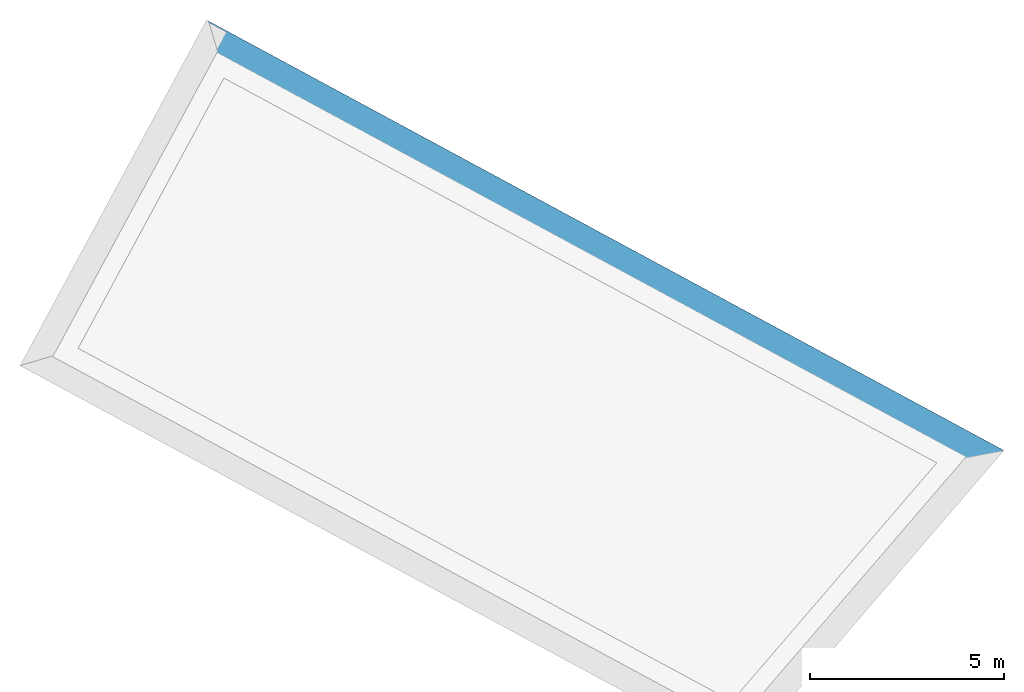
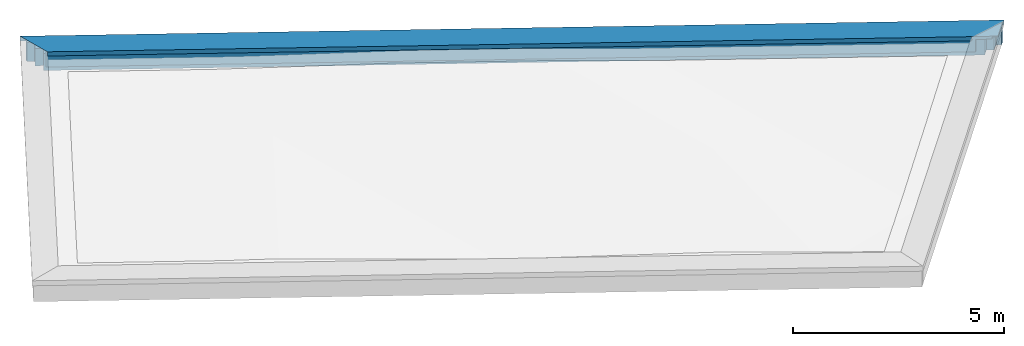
# One storey, part 3 of 5: 1 wall.
"""IFC2X3 building model written with IfcOpenShell, lengths in metres."""

from ifc_helpers import new_model, entity, si_unit, converted_unit, derived_unit, money_unit, direction, frame, origin_with_axes, place, context, subcontext, project, spatial, faceted_brep, material, material_list, type_object, element, save


model = new_model("IFC2X3")

# Units and contexts
model_context = context("Model", 3, precision=1e-05, world=origin_with_axes(), true_north=direction((0.0, 1.0)))
body_context = subcontext(model_context, "Body", "Model", "MODEL_VIEW")
ifc_project = project(units=[si_unit("LENGTHUNIT", "METRE"), si_unit("AREAUNIT", "SQUARE_METRE"), si_unit("VOLUMEUNIT", "CUBIC_METRE"), converted_unit("PLANEANGLEUNIT", "DEGREE", entity("IfcPlaneAngleMeasure", 0.0174532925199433), si_unit("PLANEANGLEUNIT", "RADIAN"), dimensions=[0, 0, 0, 0, 0, 0, 0]), money_unit("EUR"), converted_unit("TIMEUNIT", "Year", entity("IfcTimeMeasure", 31556926.0), si_unit("TIMEUNIT", "SECOND"), dimensions=[0, 0, 1, 0, 0, 0, 0]), si_unit("MASSUNIT", "GRAM", prefix="KILO"), si_unit("THERMODYNAMICTEMPERATUREUNIT", "DEGREE_CELSIUS"), si_unit("LUMINOUSINTENSITYUNIT", "LUMEN"), si_unit("ENERGYUNIT", "JOULE", prefix="MEGA"), derived_unit("THERMALCONDUCTANCEUNIT", [(si_unit("POWERUNIT", "WATT"), 1), (si_unit("LENGTHUNIT", "METRE"), -1), (si_unit("THERMODYNAMICTEMPERATUREUNIT", "KELVIN"), -1)]), derived_unit("SPECIFICHEATCAPACITYUNIT", [(si_unit("ENERGYUNIT", "JOULE"), 1), (si_unit("MASSUNIT", "GRAM", prefix="KILO"), -1), (si_unit("THERMODYNAMICTEMPERATUREUNIT", "KELVIN"), -1)]), derived_unit("MASSDENSITYUNIT", [(si_unit("MASSUNIT", "GRAM", prefix="KILO"), 1), (si_unit("VOLUMEUNIT", "CUBIC_METRE"), -1)])], contexts=[model_context])

# Site, building, storey
site_placement = place(None, frame((-3.949935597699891, 1.740105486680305, 0.0), z_axis=(0.0, 0.0, 1.0), x_axis=(0.8799804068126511, -0.475009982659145, 0.0)))
site = spatial("IfcSite", under=ifc_project, at=site_placement, Name="Gelände", CompositionType="ELEMENT")
building_placement = place(site_placement, origin_with_axes())
building = spatial("IfcBuilding", under=site, at=building_placement, Name="Gebäude", CompositionType="ELEMENT")
storey_placement = place(building_placement, frame((0.0, 0.0, 7.904999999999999), z_axis=(0.0, 0.0, 1.0), x_axis=(1.0, 0.0, 0.0)))
storey = spatial("IfcBuildingStorey", under=building, at=storey_placement, Name="Dachaufsicht", CompositionType="ELEMENT", Elevation=7.905)

# Wall
ifc_material_1 = material(Name="_SIWH - Dämmung, hart Mineralwolle")
ifc_material_2 = material(Name="_SIWH - Beton, Stahlbeton")
ifc_material_3 = material(Name="_SIWH - Holz, Bauholz")
ifc_material_4 = material(Name="_SIWH - Dämmung, weich Mineralwolle")
ifc_material_5 = material(Name="_SIWH - Luftschicht vertikal")
ifc_material_6 = material(Name="_SIWH - MW Vormauerziegel")
ifc_material_7 = material(Name="_SIWH - Metall, Aluminium")
ifc_material_list = material_list([ifc_material_1, ifc_material_2, ifc_material_3, ifc_material_4, ifc_material_5, ifc_material_6, ifc_material_7])
wall_type = type_object("IfcWallType", Name="_SIWH - Attika 1.OG 635 x 625", PredefinedType="NOTDEFINED")
wall_placement = place(storey_placement, frame((27.97633118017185, 10.85780102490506, -0.1909999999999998), z_axis=(0.0, 0.0, 1.0), x_axis=(-1.0, 0.0, 0.0)))
element("IfcWall", 1, at=wall_placement, inside=storey, type_object=wall_type, material=ifc_material_list, Name="A-Wand031", context=body_context, shape_type="Brep", body=[
    faceted_brep([(22.3188505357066, 0.2600000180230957, 0.5599999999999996), (-0.1274569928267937, 0.2600000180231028, 0.5599999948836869), (-0.2235567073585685, -0.1799999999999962, 0.5599999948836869), (22.3188505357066, -0.1800000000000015, 0.5599999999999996), (-0.1274569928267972, 0.2600000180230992, 0.5014142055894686), (-0.1274569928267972, 0.2600000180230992, 0.5020656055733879), (22.3188505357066, 0.2600000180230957, 0.5020656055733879), (22.3188505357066, 0.2600000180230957, 0.5014142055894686), (22.3188505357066, 0.2600000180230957, 0.4999999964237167), (22.3188505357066, 0.2600000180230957, 0.4857034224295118), (22.3188505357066, 0.2600000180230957, 0.4848284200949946), (22.3188505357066, 0.2600000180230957, 0.4808749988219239), (22.3188505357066, 0.2600000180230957, 0.4799999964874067), (22.3188505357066, 0.2600000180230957, 0.1399999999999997), (0.261500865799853, 0.2600000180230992, 0.1399999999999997), (0.261500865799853, 0.2600000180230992, 0.4799999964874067), (0.261500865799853, 0.2600000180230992, 0.4808750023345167), (0.261500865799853, 0.2600000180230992, 0.4848284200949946), (0.261500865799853, 0.2600000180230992, 0.4857034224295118), (0.261500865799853, 0.2600000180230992, 0.4999999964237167), (0.05678619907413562, 0.2600000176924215, 0.4999999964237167), (-0.1274569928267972, 0.2600000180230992, 0.4999999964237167), (-0.223556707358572, -0.1799999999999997, 0.5020656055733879), (-0.223556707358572, -0.1799999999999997, 0.5014142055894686), (-0.2235567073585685, -0.1799999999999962, 0.4999999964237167), (22.3188505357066, -0.1800000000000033, 0.4999999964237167), (22.3188505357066, -0.1800000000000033, 0.5014142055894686), (22.3188505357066, -0.1800000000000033, 0.5020656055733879), (22.3188505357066, 0.2000000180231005, 0.4999999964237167), (22.3188505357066, 0.2000000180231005, 0.4857034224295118), (22.3188505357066, 0.2000000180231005, 0.4848284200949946), (22.3188505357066, 0.2000000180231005, 0.4808749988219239), (22.3188505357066, 0.2000000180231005, 0.4799999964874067), (22.3188505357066, 0.2000000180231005, 0.1399999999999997), (0.2483963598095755, 0.2000000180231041, 0.1399999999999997), (0.2483963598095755, 0.2000000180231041, 0.4799999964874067), (0.2483963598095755, 0.2000000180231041, 0.4808750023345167), (0.2483963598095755, 0.2000000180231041, 0.4848284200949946), (0.2483963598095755, 0.2000000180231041, 0.4857034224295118), (0.2483963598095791, 0.2000000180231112, 0.4999999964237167), (0.04368169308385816, 0.2000000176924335, 0.4999999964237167), (-0.1405614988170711, 0.2000000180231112, 0.4999999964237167)], [[[0, 1, 2, 3]], [[4, 5, 1, 0, 6, 7, 8, 9, 10, 11, 12, 13, 14, 15, 16, 17, 18, 19, 20, 21]], [[5, 22, 2, 1]], [[3, 2, 22, 23, 24, 25, 26, 27]], [[6, 0, 3, 27]], [[23, 22, 5, 4]], [[7, 6, 27, 26]], [[26, 25, 28, 8, 7]], [[9, 8, 28, 29]], [[9, 29, 30, 10]], [[11, 10, 30, 31]], [[11, 31, 32, 12]], [[13, 12, 32, 33]], [[34, 14, 13, 33]], [[15, 14, 34, 35]], [[15, 35, 36, 16]], [[36, 37, 17, 16]], [[38, 18, 17, 37]], [[38, 39, 19, 18]], [[39, 40, 20, 19]], [[21, 20, 40, 41]], [[23, 4, 21, 41, 24]], [[25, 24, 41, 40, 39, 28]], [[35, 34, 33, 32, 31, 30, 29, 28, 39, 38, 37, 36]]]),
    faceted_brep([(22.37885053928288, 0.2000000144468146, 0.4999999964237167), (0.04368169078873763, 0.200000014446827, 0.4999999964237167), (1.550837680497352e-09, 2.525881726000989e-09, 0.4999999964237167), (22.37885053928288, 2.525874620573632e-09, 0.4999999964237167), (0.04368169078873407, 0.2000000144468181, 0.4848284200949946), (0.04368169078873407, 0.2000000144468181, 0.4857034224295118), (22.37885053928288, 0.2000000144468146, 0.4857034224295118), (22.37885053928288, 0.2000000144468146, 0.4848284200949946), (22.37885053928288, 0.2000000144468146, 0.4808749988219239), (22.37885053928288, 0.2000000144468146, 0.4799999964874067), (22.37885053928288, 0.2000000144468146, 0.1399999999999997), (0.04368169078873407, 0.2000000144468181, 0.1399999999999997), (0.04368169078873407, 0.2000000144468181, 0.4799999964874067), (0.04368169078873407, 0.2000000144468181, 0.4808750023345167), (1.550837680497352e-09, 2.52587817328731e-09, 0.4857034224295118), (1.550837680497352e-09, 2.52587817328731e-09, 0.4848284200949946), (1.550837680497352e-09, 2.52587817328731e-09, 0.4808750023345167), (1.550837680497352e-09, 2.52587817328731e-09, 0.4799999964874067), (1.550837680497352e-09, 2.52587817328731e-09, 0.1399999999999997), (1.550837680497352e-09, 2.52587994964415e-09, 0.0), (22.37885053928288, 2.525874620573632e-09, 0.0), (22.37885053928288, 2.525874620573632e-09, 0.1399999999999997), (22.37885053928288, 2.525874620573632e-09, 0.4799999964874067), (22.37885053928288, 2.525874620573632e-09, 0.4808749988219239), (22.37885053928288, 2.525874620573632e-09, 0.4848284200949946), (22.37885053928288, 2.525874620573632e-09, 0.4857034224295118), (0.04368169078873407, 0.2000000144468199, 0.0), (22.37885053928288, 0.2000000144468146, 0.0)], [[[0, 1, 2, 3]], [[4, 5, 1, 0, 6, 7, 8, 9, 10, 11, 12, 13]], [[5, 14, 2, 1]], [[3, 2, 14, 15, 16, 17, 18, 19, 20, 21, 22, 23, 24, 25]], [[0, 3, 25, 6]], [[15, 14, 5, 4]], [[6, 25, 24, 7]], [[24, 23, 8, 7]], [[8, 23, 22, 9]], [[22, 21, 10, 9]], [[26, 11, 10, 27]], [[11, 18, 17, 12]], [[13, 12, 17, 16]], [[15, 4, 13, 16]], [[19, 18, 11, 26]], [[19, 26, 27, 20]], [[10, 21, 20, 27]]]),
    faceted_brep([(-0.2656393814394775, 0.2600000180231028, 0.5850000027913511), (-0.3912242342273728, -0.3149999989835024, 0.5850000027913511), (22.3188505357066, -0.3149999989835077, 0.5849999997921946), (22.3188505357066, 0.2600000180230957, 0.5849999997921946), (-0.3912242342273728, -0.3149999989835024, 0.5599999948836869), (-0.2656393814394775, 0.2600000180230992, 0.5599999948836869), (22.3188505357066, -0.3149999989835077, 0.5599999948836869), (22.3188505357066, 0.2600000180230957, 0.5599999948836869)], [[[0, 1, 2, 3]], [[4, 1, 0, 5]], [[1, 4, 6, 2]], [[3, 2, 6, 7]], [[5, 0, 3, 7]], [[4, 5, 7, 6]]]),
    faceted_brep([(-0.1842431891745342, 9.761595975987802e-10, 0.4999999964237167), (-0.2235567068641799, -0.1799999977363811, 0.4999999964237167), (22.57885055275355, -0.1799999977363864, 0.4999999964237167), (22.57885055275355, 9.761524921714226e-10, 0.4999999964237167), (-0.2235567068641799, -0.1799999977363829, 0.4857034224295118), (-0.1842431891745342, 9.761560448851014e-10, 0.4857034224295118), (-0.2235567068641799, -0.1799999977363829, 0.4848284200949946), (-0.2235567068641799, -0.1799999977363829, 0.4808750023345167), (-0.2235567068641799, -0.1799999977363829, 0.4799999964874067), (-0.2235567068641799, -0.1799999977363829, 0.1399999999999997), (-0.2235567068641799, -0.1799999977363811, 0.0), (22.57885055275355, -0.1799999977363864, 0.0), (22.57885055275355, -0.1799999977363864, 0.1399999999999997), (22.57885055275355, -0.1799999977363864, 0.4799999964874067), (22.57885055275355, -0.1799999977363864, 0.4808749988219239), (22.57885055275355, -0.1799999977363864, 0.4848284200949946), (22.57885055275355, -0.1799999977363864, 0.4857034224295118), (22.57885055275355, 9.761524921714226e-10, 0.4857034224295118), (22.57885055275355, 9.761524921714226e-10, 0.4848284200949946), (22.57885055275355, 9.761524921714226e-10, 0.4808749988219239), (22.57885055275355, 9.761524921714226e-10, 0.4799999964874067), (22.57885055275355, 9.761524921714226e-10, 0.1399999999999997), (22.57885055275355, 9.761524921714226e-10, 0.0), (-0.1842431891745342, 9.761595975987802e-10, 0.0), (-0.1842431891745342, 9.761560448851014e-10, 0.1399999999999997), (-0.1842431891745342, 9.761560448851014e-10, 0.4799999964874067), (-0.1842431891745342, 9.761560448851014e-10, 0.4808750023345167), (-0.1842431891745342, 9.761560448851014e-10, 0.4848284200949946)], [[[0, 1, 2, 3]], [[4, 1, 0, 5]], [[1, 4, 6, 7, 8, 9, 10, 11, 12, 13, 14, 15, 16, 2]], [[16, 17, 3, 2]], [[5, 0, 3, 17, 18, 19, 20, 21, 22, 23, 24, 25, 26, 27]], [[4, 5, 27, 6]], [[7, 6, 27, 26]], [[25, 8, 7, 26]], [[25, 24, 9, 8]], [[9, 24, 23, 10]], [[11, 10, 23, 22]], [[11, 22, 21, 12]], [[13, 12, 21, 20]], [[13, 20, 19, 14]], [[15, 14, 19, 18]], [[15, 18, 17, 16]]]),
    faceted_brep([(-0.2440281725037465, -0.1800000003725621, 0.5599999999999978), (-0.248396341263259, -0.2000000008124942, 0.5599999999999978), (22.75885055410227, -0.2000000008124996, 0.5599999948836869), (22.75885055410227, -0.1800000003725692, 0.5599999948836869), (-0.248396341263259, -0.200000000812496, 0.5020656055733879), (-0.2440281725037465, -0.1800000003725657, 0.5020656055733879), (-0.248396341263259, -0.200000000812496, 0.5014142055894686), (-0.248396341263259, -0.200000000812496, 0.4999999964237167), (-0.248396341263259, -0.200000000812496, 0.4857034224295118), (-0.248396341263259, -0.200000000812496, 0.4848284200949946), (-0.248396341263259, -0.200000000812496, 0.4808750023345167), (-0.248396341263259, -0.200000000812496, 0.4799999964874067), (-0.248396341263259, -0.200000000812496, 0.1399999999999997), (-0.248396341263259, -0.200000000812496, 0.0), (22.75885055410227, -0.2000000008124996, 0.0), (22.75885055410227, -0.2000000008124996, 0.1399999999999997), (22.75885055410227, -0.2000000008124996, 0.4799999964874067), (22.75885055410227, -0.2000000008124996, 0.4808749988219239), (22.75885055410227, -0.2000000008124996, 0.4848284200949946), (22.75885055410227, -0.2000000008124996, 0.4857034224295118), (22.75885055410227, -0.2000000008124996, 0.4999999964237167), (22.75885055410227, -0.2000000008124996, 0.5014142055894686), (22.75885055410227, -0.2000000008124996, 0.5020656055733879), (22.75885055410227, -0.1800000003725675, 0.5020656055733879), (22.75885055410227, -0.1800000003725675, 0.5014142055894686), (22.75885055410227, -0.1800000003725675, 0.4999999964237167), (22.75885055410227, -0.1800000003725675, 0.4857034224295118), (22.75885055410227, -0.1800000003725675, 0.4848284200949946), (22.75885055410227, -0.1800000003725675, 0.4808749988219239), (22.75885055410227, -0.1800000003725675, 0.4799999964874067), (22.75885055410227, -0.1800000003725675, 0.1399999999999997), (22.75885055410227, -0.1800000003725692, 0.0), (-0.2440281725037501, -0.1800000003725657, 0.0), (-0.2440281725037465, -0.1800000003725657, 0.1399999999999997), (-0.2440281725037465, -0.1800000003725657, 0.4799999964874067), (-0.2440281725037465, -0.1800000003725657, 0.4808750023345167), (-0.2440281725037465, -0.1800000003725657, 0.4848284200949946), (-0.2440281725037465, -0.1800000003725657, 0.4857034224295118), (-0.2440281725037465, -0.1800000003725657, 0.4999999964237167), (-0.2440281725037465, -0.1800000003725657, 0.5014142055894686)], [[[0, 1, 2, 3]], [[4, 1, 0, 5]], [[1, 4, 6, 7, 8, 9, 10, 11, 12, 13, 14, 15, 16, 17, 18, 19, 20, 21, 22, 2]], [[2, 22, 23, 3]], [[5, 0, 3, 23, 24, 25, 26, 27, 28, 29, 30, 31, 32, 33, 34, 35, 36, 37, 38, 39]], [[4, 5, 39, 6]], [[39, 38, 7, 6]], [[37, 8, 7, 38]], [[9, 8, 37, 36]], [[9, 36, 35, 10]], [[35, 34, 11, 10]], [[33, 12, 11, 34]], [[13, 12, 33, 32]], [[13, 32, 31, 14]], [[14, 31, 30, 15]], [[30, 29, 16, 15]], [[16, 29, 28, 17]], [[28, 27, 18, 17]], [[18, 27, 26, 19]], [[20, 19, 26, 25]], [[20, 25, 24, 21]], [[22, 21, 24, 23]]]),
    faceted_brep([(-0.3661072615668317, -0.1999999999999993, 0.5599999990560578), (-0.3912242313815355, -0.3149999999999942, 0.5599999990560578), (22.7788505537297, -0.3150000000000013, 0.5599999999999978), (22.7788505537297, -0.2000000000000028, 0.5599999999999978), (-0.3912242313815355, -0.3149999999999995, 0.5020656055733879), (-0.3661072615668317, -0.1999999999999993, 0.5020656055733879), (-0.3912242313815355, -0.3149999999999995, 0.5014142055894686), (-0.3912242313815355, -0.3149999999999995, 0.4999999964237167), (-0.3912242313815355, -0.3149999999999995, 0.4857034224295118), (-0.3912242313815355, -0.3149999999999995, 0.4848284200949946), (-0.3912242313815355, -0.3149999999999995, 0.4808750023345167), (-0.3912242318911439, -0.3150000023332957, 0.4799999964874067), (-0.3912242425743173, -0.3149999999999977, 0.0), (22.7788505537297, -0.3150000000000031, 0.0), (22.7788505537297, -0.3150000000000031, 0.1399999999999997), (22.7788505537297, -0.3150000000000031, 0.4799999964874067), (22.7788505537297, -0.3150000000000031, 0.4808749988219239), (22.7788505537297, -0.3150000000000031, 0.4848284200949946), (22.7788505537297, -0.3150000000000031, 0.4857034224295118), (22.7788505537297, -0.3150000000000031, 0.4999999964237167), (22.7788505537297, -0.3150000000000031, 0.5014142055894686), (22.7788505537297, -0.3150000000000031, 0.5020656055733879), (22.7788505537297, -0.2000000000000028, 0.5020656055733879), (22.7788505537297, -0.2000000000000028, 0.5014142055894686), (22.7788505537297, -0.2000000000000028, 0.4999999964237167), (22.7788505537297, -0.2000000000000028, 0.4857034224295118), (22.7788505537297, -0.2000000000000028, 0.4848284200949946), (22.7788505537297, -0.2000000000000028, 0.4808749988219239), (22.7788505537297, -0.2000000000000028, 0.4799999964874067), (22.7788505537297, -0.2000000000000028, 0.1399999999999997), (22.7788505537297, -0.2000000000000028, 0.0), (-0.3661072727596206, -0.1999999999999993, 0.0), (-0.3661072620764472, -0.2000000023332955, 0.4799999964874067), (-0.3661072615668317, -0.1999999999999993, 0.4808750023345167), (-0.3661072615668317, -0.1999999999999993, 0.4848284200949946), (-0.3661072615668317, -0.1999999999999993, 0.4857034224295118), (-0.3661072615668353, -0.1999999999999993, 0.4999999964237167), (-0.3661072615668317, -0.1999999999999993, 0.5014142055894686)], [[[0, 1, 2, 3]], [[4, 1, 0, 5]], [[1, 4, 6, 7, 8, 9, 10, 11, 12, 13, 14, 15, 16, 17, 18, 19, 20, 21, 2]], [[3, 2, 21, 22]], [[5, 0, 3, 22, 23, 24, 25, 26, 27, 28, 29, 30, 31, 32, 33, 34, 35, 36, 37]], [[4, 5, 37, 6]], [[6, 37, 36, 7]], [[7, 36, 35, 8]], [[8, 35, 34, 9]], [[9, 34, 33, 10]], [[10, 33, 32, 11]], [[11, 32, 31, 12]], [[30, 13, 12, 31]], [[29, 14, 13, 30]], [[28, 15, 14, 29]], [[27, 16, 15, 28]], [[26, 17, 16, 27]], [[25, 18, 17, 26]], [[24, 19, 18, 25]], [[23, 20, 19, 24]], [[22, 21, 20, 23]]]),
    faceted_brep([(22.92185055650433, -0.3450000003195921, 0.4857034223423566), (22.92185055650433, -0.3430000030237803, 0.4857034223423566), (22.92185055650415, -0.343000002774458, 0.4999999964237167), (22.92185055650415, -0.3450000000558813, 0.4999999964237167), (22.92185055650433, -0.3430000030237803, 0.4848284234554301), (22.92185055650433, -0.3450000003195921, 0.4848284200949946), (22.91902213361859, -0.3430000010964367, 0.484828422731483), (-0.4259997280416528, -0.3430000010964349, 0.484828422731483), (-0.4280468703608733, -0.3430000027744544, 0.4848284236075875), (-0.4280468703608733, -0.3430000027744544, 0.6229287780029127), (-0.4259997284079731, -0.3430000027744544, 0.6229287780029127), (22.86467275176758, -0.343000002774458, 0.6229287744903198), (22.92185055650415, -0.3430000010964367, 0.6229287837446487), (22.92185055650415, -0.3430000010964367, 0.5849999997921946), (22.92185055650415, -0.3430000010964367, 0.5599999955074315), (22.92185055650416, -0.3430000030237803, 0.50206560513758), (22.92185055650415, -0.343000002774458, 0.5014142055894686), (22.92185055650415, -0.3450000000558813, 0.5014142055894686), (22.92385055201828, -0.3450000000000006, 0.4800000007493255), (22.92297555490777, -0.3449999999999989, 0.4808749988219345), (22.9190221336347, -0.3450000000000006, 0.484828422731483), (22.92185055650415, -0.3450000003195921, 0.50206560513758), (22.92185055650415, -0.3450000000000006, 0.5599999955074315), (22.92185055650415, -0.3450000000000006, 0.5849999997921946), (22.92185055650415, -0.3450000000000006, 0.6229287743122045), (22.86467275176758, -0.3450000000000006, 0.6229287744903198), (22.92385055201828, -0.3450000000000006, 0.6249999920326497), (-0.4284836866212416, -0.3449999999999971, 0.6249999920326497), (-0.4284836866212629, -0.3449999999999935, 0.4800000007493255), (22.91814713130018, -0.3421250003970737, 0.4857034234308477), (22.90385055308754, -0.3278284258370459, 0.5000000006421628), (22.90526477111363, -0.3264142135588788, 0.5014142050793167), (-0.4054004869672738, -0.3264142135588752, 0.5014142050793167), (-0.4071569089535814, -0.3278284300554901, 0.4999999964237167), (-0.424912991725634, -0.3421250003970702, 0.4857034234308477), (-0.4253819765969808, -0.34017157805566, 0.4848284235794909), (-0.4274291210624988, -0.340171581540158, 0.4848284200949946), (-0.4155587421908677, -0.285822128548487, 0.6229287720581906), (-0.4135116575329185, -0.285822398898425, 0.6229287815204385), (22.2888505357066, 0.2328220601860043, 0.6027750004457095), (0.3576907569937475, 0.2880000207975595, 0.6008437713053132), (22.2888505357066, 0.2880000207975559, 0.6008437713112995), (22.92297555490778, -0.3441250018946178, 0.4808749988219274), (22.9190221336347, -0.3401715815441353, 0.4848284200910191), (22.86467275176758, -0.2858223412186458, 0.6229287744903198), (22.2888505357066, 0.2900000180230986, 0.6027749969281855), (0.3016489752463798, 0.2900000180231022, 0.6027749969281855), (22.91814713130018, -0.3392965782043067, 0.4857034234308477), (-0.4242952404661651, -0.3392965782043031, 0.4857034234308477), (-0.4065391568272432, -0.3250000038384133, 0.4999999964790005), (22.90385055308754, -0.3250000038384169, 0.4999999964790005), (0.3581275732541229, 0.2900000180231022, 0.6008437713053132), (22.2888505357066, 0.2880000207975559, 0.4857034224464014), (22.2888505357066, 0.2880000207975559, 0.4999999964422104), (22.2888505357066, 0.2880000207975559, 0.5014142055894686), (22.2888505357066, 0.2880000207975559, 0.5020656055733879), (22.2888505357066, 0.2880000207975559, 0.5599999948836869), (22.2888505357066, 0.2880000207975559, 0.5849999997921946), (0.3576907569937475, 0.2880000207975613, 0.5850000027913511), (0.3576907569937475, 0.2880000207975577, 0.5599999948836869), (0.3576907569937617, 0.2880000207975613, 0.5020656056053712), (0.3576907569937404, 0.2880000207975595, 0.5014142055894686), (0.3576907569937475, 0.2880000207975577, 0.4999999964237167), (0.3576907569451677, 0.2880000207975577, 0.48570342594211), (22.2888505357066, 0.2900000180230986, 0.5849999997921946), (22.2888505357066, 0.2900000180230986, 0.4848284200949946), (22.28885053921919, 0.2900000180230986, 0.4808750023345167), (0.3601747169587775, 0.2900000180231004, 0.4808750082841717), (0.3561281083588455, 0.2900000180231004, 0.4848284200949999), (0.3552324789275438, 0.2900000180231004, 0.4857034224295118), (0.3581275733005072, 0.2900000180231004, 0.4857034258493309), (0.3581275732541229, 0.2900000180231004, 0.4999999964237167), (0.3581275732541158, 0.2900000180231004, 0.5014142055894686), (0.3581275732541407, 0.2900000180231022, 0.5020656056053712), (0.3581275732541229, 0.2900000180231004, 0.5599999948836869), (0.3581275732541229, 0.2900000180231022, 0.5850000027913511), (22.2888505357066, 0.2900000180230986, 0.5599999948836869), (22.2888505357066, 0.2900000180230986, 0.5020656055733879), (22.2888505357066, 0.2900000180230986, 0.5014142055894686), (22.2888505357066, 0.2900000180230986, 0.4999999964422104), (22.2888505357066, 0.2900000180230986, 0.4857034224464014), (22.30514710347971, 0.2737034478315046, 0.4999999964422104), (22.29085053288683, 0.288000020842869, 0.4857034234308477), (0.3547956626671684, 0.2880000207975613, 0.4857034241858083), (0.3370395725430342, 0.2737034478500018, 0.4999999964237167), (0.3362305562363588, 0.2730520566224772, 0.5006513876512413), (0.3368447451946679, 0.2722892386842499, 0.5014142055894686), (0.3373692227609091, 0.2716378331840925, 0.502065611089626), (22.30721271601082, 0.271637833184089, 0.502065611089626), (22.30656131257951, 0.2722892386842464, 0.5014142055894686), (22.2888505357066, 0.2860466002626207, 0.4848284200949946), (22.29085053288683, 0.285171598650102, 0.4857034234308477), (22.30514710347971, 0.2708750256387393, 0.4999999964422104), (22.30579850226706, 0.2702236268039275, 0.5006513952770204), (0.33561280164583, 0.2702236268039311, 0.5006513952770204), (0.3364218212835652, 0.2708750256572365, 0.4999999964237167), (0.3541779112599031, 0.2851715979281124, 0.4857034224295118), (0.3552646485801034, 0.2860466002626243, 0.4848284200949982), (22.2888505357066, 0.2851715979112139, 0.4857034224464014), (0.3365602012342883, 0.2709864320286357, 0.5014142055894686), (22.30656131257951, 0.2709864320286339, 0.5014142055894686)], [[[0, 1, 2, 3]], [[4, 1, 0, 5]], [[4, 6, 7, 8, 9, 10, 11, 12, 13, 14, 15, 16, 2, 1]], [[3, 2, 16, 17]], [[18, 19, 20, 5, 0, 3, 17, 21, 22, 23, 24, 25, 26, 27, 28]], [[6, 4, 5, 20]], [[6, 29, 30, 31, 32, 33, 34, 7]], [[35, 36, 8, 7]], [[8, 36, 28, 27, 37, 9]], [[37, 38, 10, 9]], [[39, 11, 10, 40, 41]], [[12, 11, 25, 24]], [[13, 12, 24, 23]], [[14, 13, 23, 22]], [[21, 15, 14, 22]], [[15, 21, 17, 16]], [[19, 18, 42]], [[43, 6, 20, 19, 42]], [[11, 44, 26, 25]], [[44, 45, 46, 38, 37, 27, 26]], [[47, 43, 42, 18, 28, 36, 35, 48, 49, 50]], [[43, 47, 29, 6]], [[30, 29, 47, 50]], [[31, 30, 50]], [[31, 50, 49, 32]], [[49, 33, 32]], [[49, 48, 34, 33]], [[48, 35, 7, 34]], [[51, 40, 10, 38, 46]], [[45, 44, 11, 39]], [[52, 53, 54, 55, 56, 57, 41, 40, 58, 59, 60, 61, 62, 63]], [[64, 45, 39, 41, 57]], [[65, 66, 67, 68, 69, 70, 71, 72, 73, 74, 75, 51, 46, 45, 64, 76, 77, 78, 79, 80]], [[51, 75, 58, 40]], [[80, 79, 53, 52]], [[79, 78, 54, 53]], [[78, 77, 55, 54]], [[77, 76, 56, 55]], [[76, 64, 57, 56]], [[75, 74, 59, 58]], [[74, 73, 60, 59]], [[73, 72, 61, 60]], [[72, 71, 62, 61]], [[71, 70, 63, 62]], [[81, 82, 52, 63, 83, 84, 85, 86, 87, 88, 89]], [[66, 65, 90]], [[91, 92, 93, 94, 95, 96, 97, 67, 66, 90, 98]], [[68, 67, 97]], [[69, 68, 97, 96, 83]], [[63, 70, 69, 83]], [[65, 80, 52, 98, 90]], [[82, 81, 92, 91]], [[82, 91, 98, 52]], [[83, 96, 95, 84]], [[84, 95, 94, 85]], [[86, 85, 94, 99]], [[87, 86, 99]], [[100, 88, 87, 99, 94, 93]], [[100, 89, 88]], [[89, 100, 93, 92, 81]]]),
])

save(model, "model.ifc")
